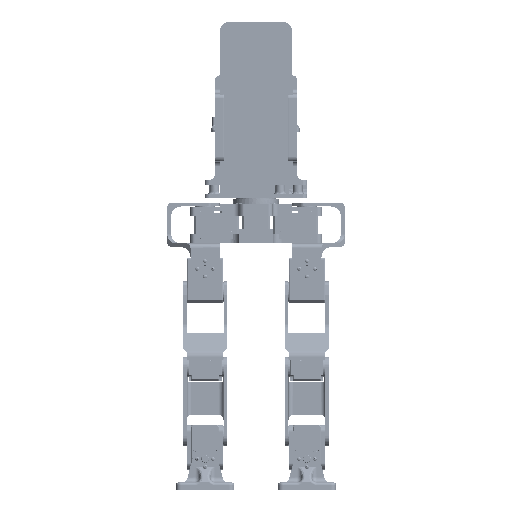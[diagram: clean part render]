
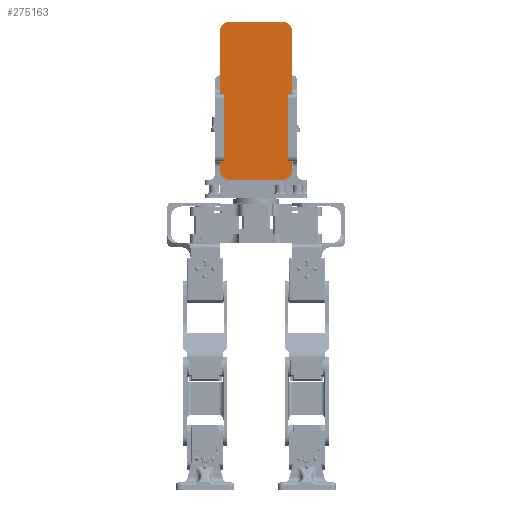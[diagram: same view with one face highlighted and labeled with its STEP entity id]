
A CAD part, front view. The second image highlights one B-rep face of the part: STEP entity #275163.
In plain terms, the highlighted planar face has unit normal (0, -1, 0).
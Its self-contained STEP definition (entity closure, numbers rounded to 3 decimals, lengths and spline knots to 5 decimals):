
#30589=LINE('',#468920,#57408);
#30593=LINE('',#468929,#57412);
#30599=LINE('',#468943,#57418);
#30603=LINE('',#468952,#57422);
#57408=VECTOR('',#374201,1.);
#57412=VECTOR('',#374207,1.);
#57418=VECTOR('',#374215,1.);
#57422=VECTOR('',#374221,1.);
#68546=PLANE('',#305025);
#143511=ORIENTED_EDGE('',*,*,#188042,.F.);
#143512=ORIENTED_EDGE('',*,*,#188052,.T.);
#143513=ORIENTED_EDGE('',*,*,#188036,.F.);
#143514=ORIENTED_EDGE('',*,*,#188053,.T.);
#143515=ORIENTED_EDGE('',*,*,#188032,.F.);
#143516=ORIENTED_EDGE('',*,*,#188054,.T.);
#143517=ORIENTED_EDGE('',*,*,#188046,.F.);
#143518=ORIENTED_EDGE('',*,*,#188055,.T.);
#188032=EDGE_CURVE('NONE',#216332,#216333,#30589,.F.);
#188036=EDGE_CURVE('NONE',#216336,#216337,#30593,.F.);
#188042=EDGE_CURVE('NONE',#216342,#216343,#30599,.F.);
#188046=EDGE_CURVE('NONE',#216346,#216347,#30603,.F.);
#188052=EDGE_CURVE('NONE',#216342,#216337,#227024,.T.);
#188053=EDGE_CURVE('NONE',#216336,#216333,#227025,.T.);
#188054=EDGE_CURVE('NONE',#216332,#216347,#227026,.T.);
#188055=EDGE_CURVE('NONE',#216346,#216343,#227027,.T.);
#216332=VERTEX_POINT('',#468921);
#216333=VERTEX_POINT('',#468922);
#216336=VERTEX_POINT('',#468930);
#216337=VERTEX_POINT('',#468931);
#216342=VERTEX_POINT('',#468942);
#216343=VERTEX_POINT('',#468944);
#216346=VERTEX_POINT('',#468951);
#216347=VERTEX_POINT('',#468953);
#227024=CIRCLE('',#305026,0.01);
#227025=CIRCLE('',#305027,0.01);
#227026=CIRCLE('',#305028,0.01);
#227027=CIRCLE('',#305029,0.01);
#242727=EDGE_LOOP('',(#143511,#143512,#143513,#143514,#143515,#143516,#143517,
#143518));
#259684=FACE_BOUND('',#242727,.T.);
#275163=ADVANCED_FACE('NONE',(#259684),#68546,.F.);
#305025=AXIS2_PLACEMENT_3D('',#468960,#374233,#374234);
#305026=AXIS2_PLACEMENT_3D('',#468961,#374235,#374236);
#305027=AXIS2_PLACEMENT_3D('',#468962,#374237,#374238);
#305028=AXIS2_PLACEMENT_3D('',#468963,#374239,#374240);
#305029=AXIS2_PLACEMENT_3D('',#468964,#374241,#374242);
#374201=DIRECTION('',(0.,0.,-1.));
#374207=DIRECTION('',(-1.,0.,0.));
#374215=DIRECTION('',(0.,0.,1.));
#374221=DIRECTION('',(1.,0.,0.));
#374233=DIRECTION('',(0.,1.,0.));
#374234=DIRECTION('',(0.,0.,1.));
#374235=DIRECTION('',(0.,-1.,0.));
#374236=DIRECTION('',(0.,0.,-1.));
#374237=DIRECTION('',(0.,-1.,0.));
#374238=DIRECTION('',(0.,0.,-1.));
#374239=DIRECTION('',(0.,-1.,0.));
#374240=DIRECTION('',(0.,0.,-1.));
#374241=DIRECTION('',(0.,-1.,0.));
#374242=DIRECTION('',(0.,0.,-1.));
#468920=CARTESIAN_POINT('',(-0.03747,0.,-0.08128));
#468921=CARTESIAN_POINT('',(-0.03747,0.,-0.07128));
#468922=CARTESIAN_POINT('',(-0.03747,0.,0.07128));
#468929=CARTESIAN_POINT('',(-0.03747,0.,0.08128));
#468930=CARTESIAN_POINT('',(-0.02747,0.,0.08128));
#468931=CARTESIAN_POINT('',(0.02747,0.,0.08128));
#468942=CARTESIAN_POINT('',(0.03747,0.,0.07128));
#468943=CARTESIAN_POINT('',(0.03747,0.,-0.08128));
#468944=CARTESIAN_POINT('',(0.03747,0.,-0.07128));
#468951=CARTESIAN_POINT('',(0.02747,0.,-0.08128));
#468952=CARTESIAN_POINT('',(-0.03747,0.,-0.08128));
#468953=CARTESIAN_POINT('',(-0.02747,0.,-0.08128));
#468960=CARTESIAN_POINT('',(0.,0.,0.));
#468961=CARTESIAN_POINT('',(0.02747,0.,0.07128));
#468962=CARTESIAN_POINT('',(-0.02747,0.,0.07128));
#468963=CARTESIAN_POINT('',(-0.02747,0.,-0.07128));
#468964=CARTESIAN_POINT('',(0.02747,0.,-0.07128));
